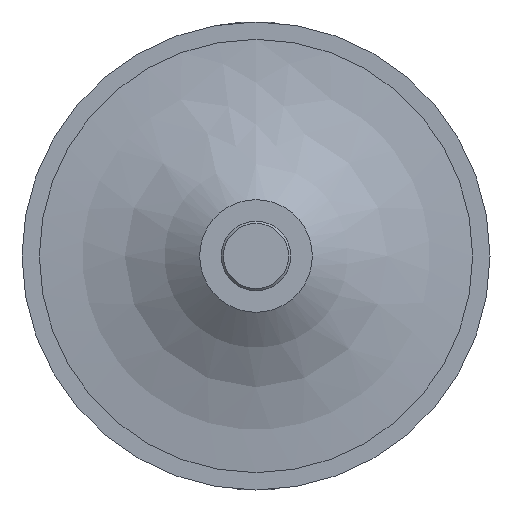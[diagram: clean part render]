
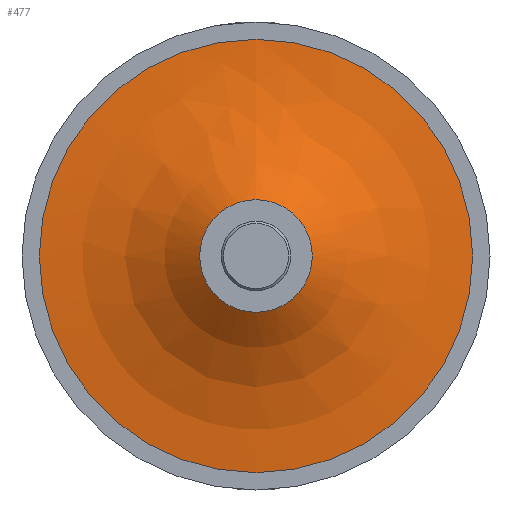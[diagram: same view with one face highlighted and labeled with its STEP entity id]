
A CAD part, front view. The second image highlights one B-rep face of the part: STEP entity #477.
In plain terms, the highlighted free-form (B-spline) face has degree [2, 2] with [3, 9] control points.
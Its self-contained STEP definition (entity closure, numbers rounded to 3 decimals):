
#15=(
BOUNDED_SURFACE()
B_SPLINE_SURFACE(2,2,((#950,#951,#952,#953,#954,#955,#956,#957,#958),(#959,
#960,#961,#962,#963,#964,#965,#966,#967),(#968,#969,#970,#971,#972,#973,
#974,#975,#976)),.UNSPECIFIED.,.F.,.T.,.F.)
B_SPLINE_SURFACE_WITH_KNOTS((3,3),(3,2,2,2,3),(-2.271,-1.571),
(-3.142,-1.571,0.,1.571,3.142),
 .UNSPECIFIED.)
GEOMETRIC_REPRESENTATION_ITEM()
RATIONAL_B_SPLINE_SURFACE(((1.,0.707,1.,0.707,1.,
0.707,1.,0.707,1.),(0.939,0.664,
0.939,0.664,0.939,0.664,
0.939,0.664,0.939),(1.,0.707,
1.,0.707,1.,0.707,1.,0.707,1.)))
REPRESENTATION_ITEM('')
SURFACE()
);
#50=CIRCLE('',#548,50.);
#51=CIRCLE('',#549,57.454);
#52=CIRCLE('',#550,13.);
#104=FACE_OUTER_BOUND('',#144,.T.);
#144=EDGE_LOOP('',(#407,#408,#409,#410));
#242=VERTEX_POINT('',#948);
#243=VERTEX_POINT('',#977);
#299=EDGE_CURVE('',#242,#242,#50,.T.);
#300=EDGE_CURVE('',#242,#243,#51,.T.);
#301=EDGE_CURVE('',#243,#243,#52,.T.);
#407=ORIENTED_EDGE('',*,*,#299,.T.);
#408=ORIENTED_EDGE('',*,*,#300,.T.);
#409=ORIENTED_EDGE('',*,*,#301,.F.);
#410=ORIENTED_EDGE('',*,*,#300,.F.);
#477=ADVANCED_FACE('',(#104),#15,.T.);
#548=AXIS2_PLACEMENT_3D('',#949,#665,#666);
#549=AXIS2_PLACEMENT_3D('',#978,#667,#668);
#550=AXIS2_PLACEMENT_3D('',#979,#669,#670);
#665=DIRECTION('center_axis',(0.,-1.,0.));
#666=DIRECTION('ref_axis',(1.,0.,0.));
#667=DIRECTION('center_axis',(-1.,0.,0.));
#668=DIRECTION('ref_axis',(0.,0.,1.));
#669=DIRECTION('center_axis',(0.,-1.,0.));
#670=DIRECTION('ref_axis',(1.,0.,0.));
#948=CARTESIAN_POINT('',(0.,13.5,50.));
#949=CARTESIAN_POINT('Origin',(0.,13.5,0.));
#950=CARTESIAN_POINT('Ctrl Pts',(0.,0.,13.));
#951=CARTESIAN_POINT('Ctrl Pts',(-13.,0.,13.));
#952=CARTESIAN_POINT('Ctrl Pts',(-13.,0.,0.));
#953=CARTESIAN_POINT('Ctrl Pts',(-13.,0.,-13.));
#954=CARTESIAN_POINT('Ctrl Pts',(0.,0.,-13.));
#955=CARTESIAN_POINT('Ctrl Pts',(13.,0.,-13.));
#956=CARTESIAN_POINT('Ctrl Pts',(13.,0.,0.));
#957=CARTESIAN_POINT('Ctrl Pts',(13.,0.,13.));
#958=CARTESIAN_POINT('Ctrl Pts',(0.,0.,13.));
#959=CARTESIAN_POINT('Ctrl Pts',(0.,13.5,29.037));
#960=CARTESIAN_POINT('Ctrl Pts',(-29.037,13.5,29.037));
#961=CARTESIAN_POINT('Ctrl Pts',(-29.037,13.5,0.));
#962=CARTESIAN_POINT('Ctrl Pts',(-29.037,13.5,-29.037));
#963=CARTESIAN_POINT('Ctrl Pts',(0.,13.5,-29.037));
#964=CARTESIAN_POINT('Ctrl Pts',(29.037,13.5,-29.037));
#965=CARTESIAN_POINT('Ctrl Pts',(29.037,13.5,0.));
#966=CARTESIAN_POINT('Ctrl Pts',(29.037,13.5,29.037));
#967=CARTESIAN_POINT('Ctrl Pts',(0.,13.5,29.037));
#968=CARTESIAN_POINT('Ctrl Pts',(0.,13.5,50.));
#969=CARTESIAN_POINT('Ctrl Pts',(-50.,13.5,50.));
#970=CARTESIAN_POINT('Ctrl Pts',(-50.,13.5,0.));
#971=CARTESIAN_POINT('Ctrl Pts',(-50.,13.5,-50.));
#972=CARTESIAN_POINT('Ctrl Pts',(0.,13.5,-50.));
#973=CARTESIAN_POINT('Ctrl Pts',(50.,13.5,-50.));
#974=CARTESIAN_POINT('Ctrl Pts',(50.,13.5,0.));
#975=CARTESIAN_POINT('Ctrl Pts',(50.,13.5,50.));
#976=CARTESIAN_POINT('Ctrl Pts',(0.,13.5,50.));
#977=CARTESIAN_POINT('',(0.,0.,13.));
#978=CARTESIAN_POINT('Origin',(0.,-43.954,
50.));
#979=CARTESIAN_POINT('Origin',(0.,0.,0.));
